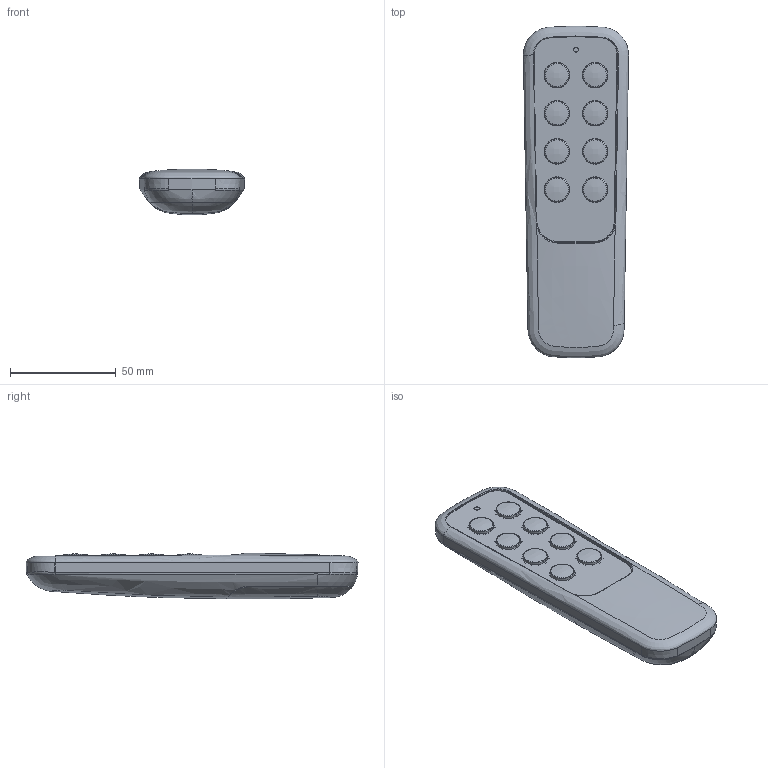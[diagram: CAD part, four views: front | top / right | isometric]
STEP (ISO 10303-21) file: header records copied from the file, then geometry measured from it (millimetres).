
FILE_DESCRIPTION (( 'STEP AP203' ), '1' );
FILE_NAME ('TFH28.STEP', '2019-04-25T10:10:18', ( '' ), ( '' ), 'SwSTEP 2.0', 'SolidWorks 2015', '' );
FILE_SCHEMA (( 'CONFIG_CONTROL_DESIGN' ));
Length unit declared in the file: millimetre
Products named in the file (6): TFH28-砎糯偌潬-11.6; TFH28-ID-cover; TFH28-ID-DOWN; TFH28-ID-Nameplate; TFH28; TFH28-ID-TOP
Assembly tree (5 placements, depth 2):
  TFH28
    TFH28-ID-TOP
    TFH28-ID-DOWN
    TFH28-ID-Nameplate
    TFH28-ID-cover
    TFH28-砎糯偌潬-11.6
Bounding box: 49.62 x 156.7 x 21.61 mm (x, y, z)
Volume: 45226.4 mm3; surface area: 61503.7 mm2
Topology: 5 solids, 5 shells, 1089 faces, 2965 edges, 1887 vertices
Faces by surface type: plane 432, cylinder 325, bspline 181, cone 76, torus 69, sphere 6
Entity records: 80202 total; most frequent: CARTESIAN_POINT 53319, ORIENTED_EDGE 5914, DIRECTION 4976, EDGE_CURVE 2957, VERTEX_POINT 1887, AXIS2_PLACEMENT_3D 1761, VECTOR 1454, LINE 1454
